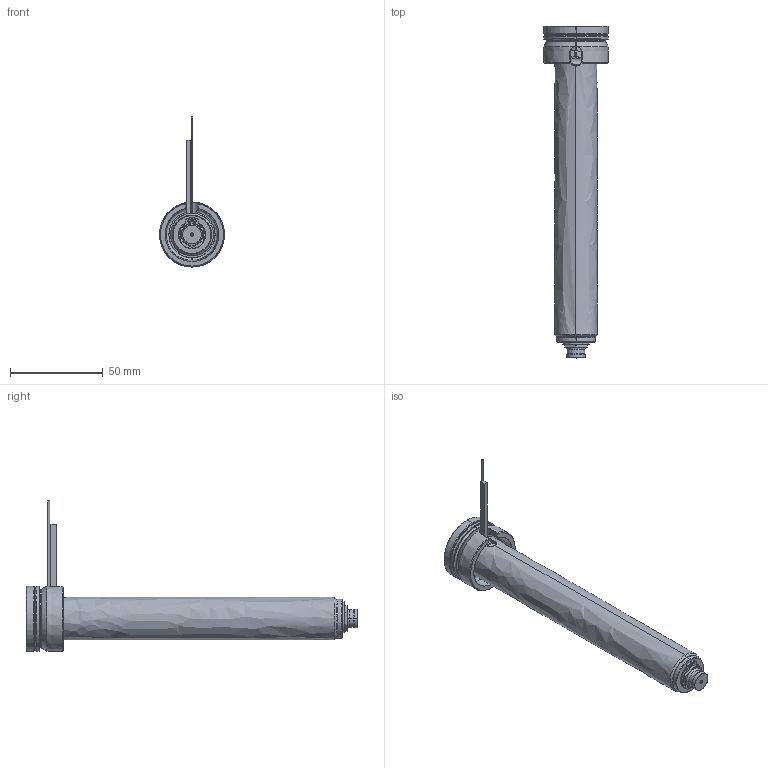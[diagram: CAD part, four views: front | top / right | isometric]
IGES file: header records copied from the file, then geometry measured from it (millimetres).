
Start section: SolidWorks IGES file using analytic representation for surfaces
Global section: file name: C:\Documents and Settings\ws-20\Desktop\TEM\UGEP3154-S-A-1 [Øf-0.70 P-0 ØC-6.0].IGS; native system: SolidWorks 2012; preprocessor: SolidWorks 2012; author: ws-20; date: 120404.081133; units: millimetre
Bounding box: 35 x 179 x 80.9 mm (x, y, z)
Surface area: 25819.9 mm2 (no closed solid volume)
Topology: 0 solids, 0 shells, 125 faces, 1948 edges, 1948 vertices
Faces by surface type: revolution 75, bspline 50
